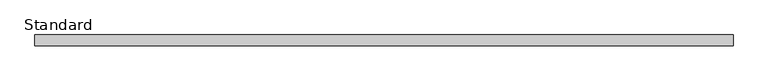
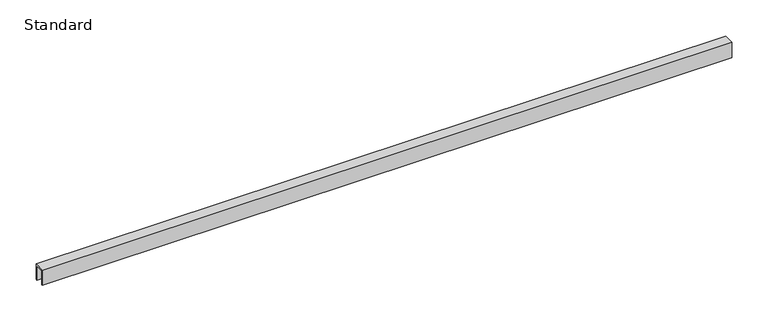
"""IFC4 building model written with IfcOpenShell, lengths in millimetres: furniture geometry, X_Partition-Channel-Duracube-Ceiling : Standard."""

from ifc_helpers import new_model, si_unit, frame, origin, place, context, project, spatial, polyline, outline, extrude, source, transform, mapped, element, save


def standard_b136e32f(model_context):
    return source(origin(), model_context, "Body", "SweptSolid", [
        extrude(outline(polyline([(0.0, 0.0), (-2.0, 0.0), (-2.0, 24.0), (-15.0, 24.0), (-15.0, 0.0), (-17.0, 0.0), (-17.0, 26.0), (0.0, 26.0), (0.0, 0.0)])), frame((-506.2996736, 0.0, 0.0), z_axis=(1.0, 0.0, 0.0), x_axis=(0.0, 1.0, 0.0)), (0.0, 0.0, 1.0), 1102.0),
    ])


if __name__ == "__main__":
    model = new_model("IFC4")
    model_context = context("Model", 3, world=origin())
    ifc_project = project(units=[si_unit("LENGTHUNIT", "METRE", prefix="MILLI")], contexts=[model_context])
    site = spatial("IfcSite", under=ifc_project)
    building = spatial("IfcBuilding", under=site)
    placement = place(None, origin())
    standard_shape = standard_b136e32f(model_context)
    element("IfcFurniture", 1, ObjectType="X_Partition-Channel-Duracube-Ceiling : Standard", at=placement, inside=building, context=model_context, shape_type="MappedRepresentation", body=[
        mapped(standard_shape, transform((0.0, 0.0, 0.0), x_axis=(1.0, 0.0, 0.0), y_axis=(0.0, 1.0, 0.0), z_axis=(0.0, 0.0, 1.0))),
    ])
    save(model, "model.ifc")
